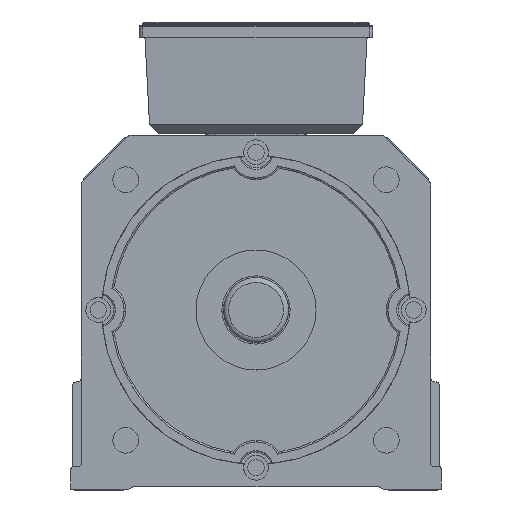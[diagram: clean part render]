
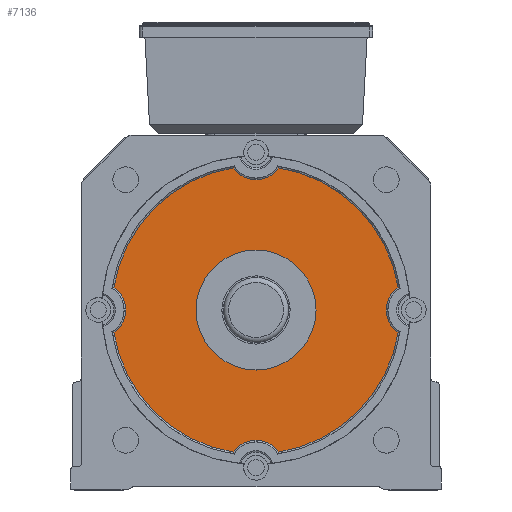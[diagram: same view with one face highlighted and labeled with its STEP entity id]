
A CAD part, front view. The second image highlights one B-rep face of the part: STEP entity #7136.
In plain terms, the highlighted planar face has unit normal (0, -1, 0).
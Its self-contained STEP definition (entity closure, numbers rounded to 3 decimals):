
#4806=PLANE('',#27080);
#7136=ADVANCED_FACE('',(#8968,#8969),#4806,.T.);
#8968=FACE_BOUND('',#9825,.T.);
#8969=FACE_BOUND('',#9826,.T.);
#9825=EDGE_LOOP('',(#13760));
#9826=EDGE_LOOP('',(#13761,#13762,#13763,#13764,#13765,#13766,#13767,#13768));
#13760=ORIENTED_EDGE('',*,*,#22361,.T.);
#13761=ORIENTED_EDGE('',*,*,#21885,.T.);
#13762=ORIENTED_EDGE('',*,*,#22542,.T.);
#13763=ORIENTED_EDGE('',*,*,#22410,.T.);
#13764=ORIENTED_EDGE('',*,*,#22409,.T.);
#13765=ORIENTED_EDGE('',*,*,#22406,.T.);
#13766=ORIENTED_EDGE('',*,*,#22555,.T.);
#13767=ORIENTED_EDGE('',*,*,#22065,.T.);
#13768=ORIENTED_EDGE('',*,*,#22023,.T.);
#19303=VERTEX_POINT('',#38135);
#19304=VERTEX_POINT('',#38137);
#19381=VERTEX_POINT('',#38948);
#19408=VERTEX_POINT('',#39114);
#19569=VERTEX_POINT('',#41131);
#19600=VERTEX_POINT('',#41441);
#19603=VERTEX_POINT('',#41455);
#19604=VERTEX_POINT('',#41468);
#19606=VERTEX_POINT('',#41474);
#21885=EDGE_CURVE('',#19304,#19303,#25232,.T.);
#22023=EDGE_CURVE('',#19381,#19304,#25267,.T.);
#22065=EDGE_CURVE('',#19408,#19381,#25280,.T.);
#22361=EDGE_CURVE('',#19569,#19569,#25327,.T.);
#22406=EDGE_CURVE('',#19600,#19603,#25334,.T.);
#22409=EDGE_CURVE('',#19604,#19600,#25336,.T.);
#22410=EDGE_CURVE('',#19606,#19604,#25337,.T.);
#22542=EDGE_CURVE('',#19303,#19606,#25375,.T.);
#22555=EDGE_CURVE('',#19603,#19408,#25380,.T.);
#25232=CIRCLE('',#26647,16.07);
#25267=CIRCLE('',#26735,83.93);
#25280=CIRCLE('',#26764,16.07);
#25327=CIRCLE('',#26927,35.);
#25334=CIRCLE('',#26942,16.07);
#25336=CIRCLE('',#26945,83.93);
#25337=CIRCLE('',#26947,16.07);
#25375=CIRCLE('',#27051,83.93);
#25380=CIRCLE('',#27068,83.93);
#26647=AXIS2_PLACEMENT_3D('',#38136,#30087,#30088);
#26735=AXIS2_PLACEMENT_3D('',#38947,#30298,#30299);
#26764=AXIS2_PLACEMENT_3D('',#39113,#30365,#30366);
#26927=AXIS2_PLACEMENT_3D('',#41130,#30764,#30765);
#26942=AXIS2_PLACEMENT_3D('',#41456,#30800,#30801);
#26945=AXIS2_PLACEMENT_3D('',#41471,#30806,#30807);
#26947=AXIS2_PLACEMENT_3D('',#41473,#30810,#30811);
#27051=AXIS2_PLACEMENT_3D('',#42079,#31051,#31052);
#27068=AXIS2_PLACEMENT_3D('',#42110,#31091,#31092);
#27080=AXIS2_PLACEMENT_3D('',#42124,#31117,#31118);
#30087=DIRECTION('',(0.,1.,0.));
#30088=DIRECTION('',(0.,0.,1.));
#30298=DIRECTION('',(0.,-1.,0.));
#30299=DIRECTION('',(0.,0.,1.));
#30365=DIRECTION('',(0.,1.,0.));
#30366=DIRECTION('',(0.,0.,1.));
#30764=DIRECTION('',(0.,1.,0.));
#30765=DIRECTION('',(0.,0.,1.));
#30800=DIRECTION('',(0.,1.,0.));
#30801=DIRECTION('',(0.,0.,1.));
#30806=DIRECTION('',(0.,-1.,0.));
#30807=DIRECTION('',(0.,0.,1.));
#30810=DIRECTION('',(0.,1.,0.));
#30811=DIRECTION('',(0.,0.,1.));
#31051=DIRECTION('',(0.,-1.,0.));
#31052=DIRECTION('',(0.,0.,1.));
#31091=DIRECTION('',(0.,-1.,0.));
#31092=DIRECTION('',(0.,0.,1.));
#31117=DIRECTION('',(0.,-1.,0.));
#31118=DIRECTION('',(1.,0.,0.));
#38135=CARTESIAN_POINT('',(87.55,529.506,94.746));
#38136=CARTESIAN_POINT('',(78.43,529.506,107.978));
#38137=CARTESIAN_POINT('',(87.55,529.506,121.21));
#38947=CARTESIAN_POINT('',(170.43,529.506,107.978));
#38948=CARTESIAN_POINT('',(157.198,529.506,190.858));
#39113=CARTESIAN_POINT('',(170.43,529.506,199.978));
#39114=CARTESIAN_POINT('',(183.662,529.506,190.858));
#41130=CARTESIAN_POINT('',(170.43,529.506,107.978));
#41131=CARTESIAN_POINT('',(170.43,529.506,142.978));
#41441=CARTESIAN_POINT('',(253.31,529.506,94.746));
#41455=CARTESIAN_POINT('',(253.31,529.506,121.21));
#41456=CARTESIAN_POINT('',(262.43,529.506,107.978));
#41468=CARTESIAN_POINT('',(183.662,529.506,25.098));
#41471=CARTESIAN_POINT('',(170.43,529.506,107.978));
#41473=CARTESIAN_POINT('',(170.43,529.506,15.978));
#41474=CARTESIAN_POINT('',(157.198,529.506,25.098));
#42079=CARTESIAN_POINT('',(170.43,529.506,107.978));
#42110=CARTESIAN_POINT('',(170.43,529.506,107.978));
#42124=CARTESIAN_POINT('',(170.43,529.506,107.978));
